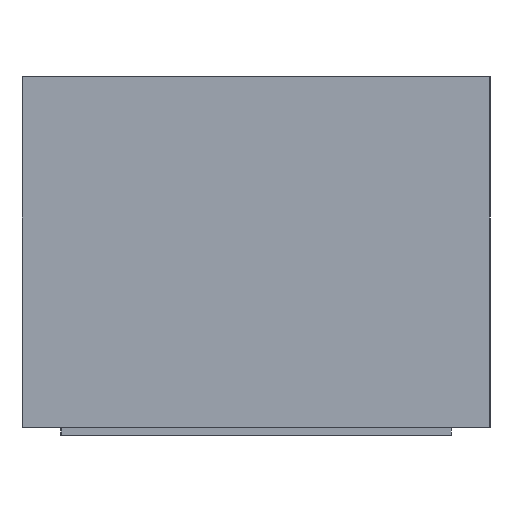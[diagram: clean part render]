
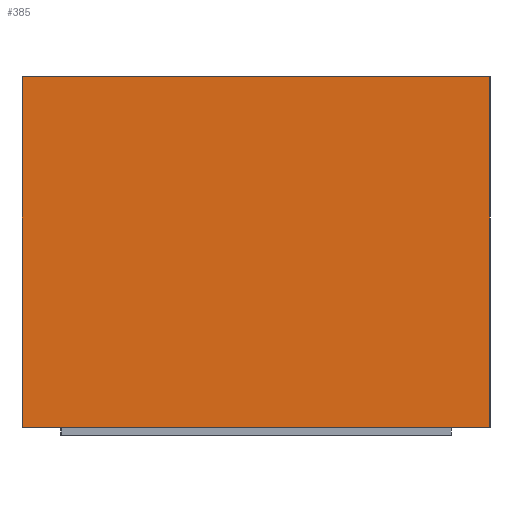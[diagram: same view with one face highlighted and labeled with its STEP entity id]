
A CAD part, left-side view. The second image highlights one B-rep face of the part: STEP entity #385.
In plain terms, the highlighted planar face has unit normal (-1, 0, 0).
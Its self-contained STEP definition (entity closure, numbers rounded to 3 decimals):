
#104=ORIENTED_EDGE('',*,*,#162,.F.);
#105=ORIENTED_EDGE('',*,*,#161,.F.);
#106=ORIENTED_EDGE('',*,*,#163,.T.);
#107=ORIENTED_EDGE('',*,*,#153,.T.);
#153=EDGE_CURVE('',#190,#188,#233,.T.);
#161=EDGE_CURVE('',#195,#194,#241,.T.);
#162=EDGE_CURVE('',#194,#188,#242,.T.);
#163=EDGE_CURVE('',#195,#190,#243,.T.);
#188=VERTEX_POINT('',#632);
#190=VERTEX_POINT('',#635);
#194=VERTEX_POINT('',#647);
#195=VERTEX_POINT('',#649);
#233=LINE('',#634,#281);
#241=LINE('',#650,#289);
#242=LINE('',#652,#290);
#243=LINE('',#653,#291);
#281=VECTOR('',#530,1000.);
#289=VECTOR('',#542,1000.);
#290=VECTOR('',#545,1000.);
#291=VECTOR('',#546,1000.);
#313=EDGE_LOOP('',(#104,#105,#106,#107));
#337=FACE_BOUND('',#313,.T.);
#361=PLANE('',#450);
#385=ADVANCED_FACE('',(#337),#361,.T.);
#450=AXIS2_PLACEMENT_3D('',#651,#543,#544);
#530=DIRECTION('',(0.,0.,-1.));
#542=DIRECTION('',(0.,0.,-1.));
#543=DIRECTION('',(-1.,0.,0.));
#544=DIRECTION('',(0.,0.,1.));
#545=DIRECTION('',(0.,1.,0.));
#546=DIRECTION('',(0.,1.,0.));
#632=CARTESIAN_POINT('',(-0.5,0.3,0.));
#634=CARTESIAN_POINT('',(-0.5,0.3,0.45));
#635=CARTESIAN_POINT('',(-0.5,0.3,0.45));
#647=CARTESIAN_POINT('',(-0.5,-0.3,0.));
#649=CARTESIAN_POINT('',(-0.5,-0.3,0.45));
#650=CARTESIAN_POINT('',(-0.5,-0.3,0.45));
#651=CARTESIAN_POINT('',(-0.5,0.3,0.45));
#652=CARTESIAN_POINT('',(-0.5,0.3,0.));
#653=CARTESIAN_POINT('',(-0.5,0.3,0.45));
